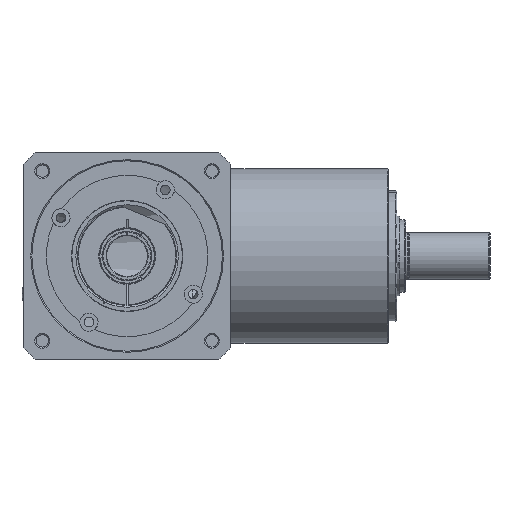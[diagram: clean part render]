
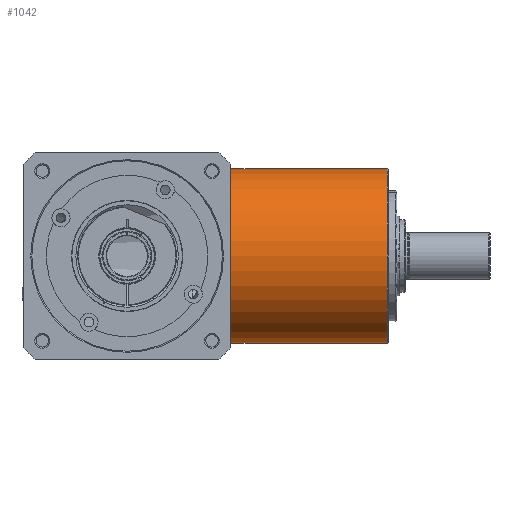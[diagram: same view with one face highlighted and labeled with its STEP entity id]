
A CAD part, front view. The second image highlights one B-rep face of the part: STEP entity #1042.
In plain terms, the highlighted cylindrical face has radius 60 mm (diameter 120 mm), a partial arc.
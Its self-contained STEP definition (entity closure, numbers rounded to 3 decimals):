
#536 = AXIS2_PLACEMENT_3D ( 'NONE', #23096, #22563, #25285 ) ;
#1042 = ADVANCED_FACE ( 'NONE', ( #11423 ), #14307, .T. ) ;
#2005 = EDGE_CURVE ( 'NONE', #6118, #36066, #21751, .T. ) ;
#4845 = DIRECTION ( 'NONE',  ( 0., 0., -1. ) ) ;
#6118 = VERTEX_POINT ( 'NONE', #23671 ) ;
#7240 = AXIS2_PLACEMENT_3D ( 'NONE', #26673, #15709, #12963 ) ;
#7725 = EDGE_CURVE ( 'NONE', #36066, #15046, #16586, .T. ) ;
#8820 = DIRECTION ( 'NONE',  ( 1., 0., 0. ) ) ;
#9867 = VECTOR ( 'NONE', #8820, 1000. ) ;
#11042 = CARTESIAN_POINT ( 'NONE',  ( 116.368, 0., 60. ) ) ;
#11423 = FACE_OUTER_BOUND ( 'NONE', #16078, .T. ) ;
#12031 = VECTOR ( 'NONE', #35652, 1000. ) ;
#12963 = DIRECTION ( 'NONE',  ( 0., 0., 1. ) ) ;
#14307 = CYLINDRICAL_SURFACE ( 'NONE', #536, 60. ) ;
#15046 = VERTEX_POINT ( 'NONE', #30291 ) ;
#15709 = DIRECTION ( 'NONE',  ( -1., 0., 0. ) ) ;
#16078 = EDGE_LOOP ( 'NONE', ( #18694, #24298, #23334, #26943 ) ) ;
#16274 = AXIS2_PLACEMENT_3D ( 'NONE', #18871, #32791, #4845 ) ;
#16467 = CARTESIAN_POINT ( 'NONE',  ( 64.5, 0., 60. ) ) ;
#16586 = CIRCLE ( 'NONE', #7240, 60. ) ;
#18694 = ORIENTED_EDGE ( 'NONE', *, *, #32355, .F. ) ;
#18871 = CARTESIAN_POINT ( 'NONE',  ( 64.5, 0., 0. ) ) ;
#21751 = LINE ( 'NONE', #35464, #12031 ) ;
#22563 = DIRECTION ( 'NONE',  ( 1., 0., 0. ) ) ;
#23096 = CARTESIAN_POINT ( 'NONE',  ( 116.368, 0., 0. ) ) ;
#23334 = ORIENTED_EDGE ( 'NONE', *, *, #2005, .T. ) ;
#23671 = CARTESIAN_POINT ( 'NONE',  ( 64.5, 0., -60. ) ) ;
#24298 = ORIENTED_EDGE ( 'NONE', *, *, #34918, .T. ) ;
#25285 = DIRECTION ( 'NONE',  ( 0., 0., -1. ) ) ;
#26673 = CARTESIAN_POINT ( 'NONE',  ( 179., 0., 0. ) ) ;
#26943 = ORIENTED_EDGE ( 'NONE', *, *, #7725, .T. ) ;
#27258 = VERTEX_POINT ( 'NONE', #16467 ) ;
#30291 = CARTESIAN_POINT ( 'NONE',  ( 179., 0., 60. ) ) ;
#31145 = CARTESIAN_POINT ( 'NONE',  ( 179., 0., -60. ) ) ;
#32355 = EDGE_CURVE ( 'NONE', #27258, #15046, #33496, .T. ) ;
#32791 = DIRECTION ( 'NONE',  ( 1., 0., 0. ) ) ;
#33496 = LINE ( 'NONE', #11042, #9867 ) ;
#33786 = CIRCLE ( 'NONE', #16274, 60. ) ;
#34918 = EDGE_CURVE ( 'NONE', #27258, #6118, #33786, .T. ) ;
#35464 = CARTESIAN_POINT ( 'NONE',  ( 116.368, 0., -60. ) ) ;
#35652 = DIRECTION ( 'NONE',  ( 1., 0., 0. ) ) ;
#36066 = VERTEX_POINT ( 'NONE', #31145 ) ;
